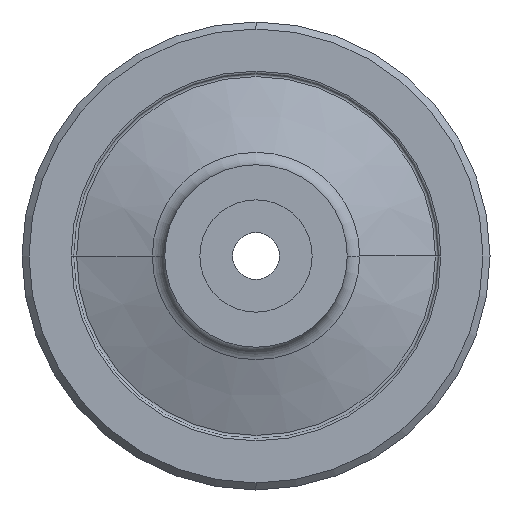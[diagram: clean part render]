
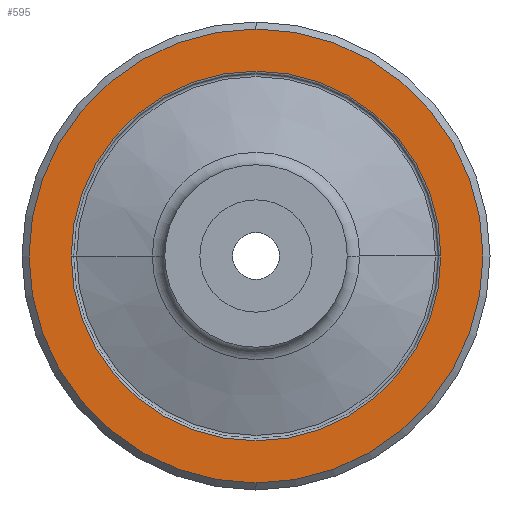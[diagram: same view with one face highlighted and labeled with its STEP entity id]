
A CAD part, left-side view. The second image highlights one B-rep face of the part: STEP entity #595.
In plain terms, the highlighted planar face has unit normal (-1, 0, 0).
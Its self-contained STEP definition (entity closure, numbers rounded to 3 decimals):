
#1 = AXIS2_PLACEMENT_3D ( 'NONE', #1043, #512, #943 ) ;
#4 = CIRCLE ( 'NONE', #1004, 39.5 ) ;
#12 = VERTEX_POINT ( 'NONE', #1334 ) ;
#30 = EDGE_CURVE ( 'NONE', #1308, #12, #1207, .T. ) ;
#44 = CARTESIAN_POINT ( 'NONE',  ( 25., 0., 0. ) ) ;
#154 = EDGE_LOOP ( 'NONE', ( #1087, #1060 ) ) ;
#192 = CIRCLE ( 'NONE', #1157, 48.5 ) ;
#215 = DIRECTION ( 'NONE',  ( -1., 0., 0. ) ) ;
#275 = ORIENTED_EDGE ( 'NONE', *, *, #998, .T. ) ;
#321 = FACE_OUTER_BOUND ( 'NONE', #720, .T. ) ;
#390 = VERTEX_POINT ( 'NONE', #1212 ) ;
#512 = DIRECTION ( 'NONE',  ( 1., 0., 0. ) ) ;
#532 = PLANE ( 'NONE',  #1326 ) ;
#556 = EDGE_CURVE ( 'NONE', #390, #1165, #715, .T. ) ;
#595 = ADVANCED_FACE ( 'NONE', ( #321, #1162 ), #532, .F. ) ;
#628 = AXIS2_PLACEMENT_3D ( 'NONE', #646, #215, #1064 ) ;
#629 = DIRECTION ( 'NONE',  ( 1., 0., 0. ) ) ;
#646 = CARTESIAN_POINT ( 'NONE',  ( 25., 0., 0. ) ) ;
#715 = CIRCLE ( 'NONE', #628, 48.5 ) ;
#720 = EDGE_LOOP ( 'NONE', ( #1019, #275 ) ) ;
#775 = DIRECTION ( 'NONE',  ( 0., 1., 0. ) ) ;
#852 = CARTESIAN_POINT ( 'NONE',  ( 25., 39., 0. ) ) ;
#859 = CARTESIAN_POINT ( 'NONE',  ( 25., 0., 48.5 ) ) ;
#898 = CARTESIAN_POINT ( 'NONE',  ( 25., 39.5, 0. ) ) ;
#943 = DIRECTION ( 'NONE',  ( 0., 1., 0. ) ) ;
#998 = EDGE_CURVE ( 'NONE', #1165, #390, #192, .T. ) ;
#1004 = AXIS2_PLACEMENT_3D ( 'NONE', #1307, #1006, #1322 ) ;
#1006 = DIRECTION ( 'NONE',  ( 1., 0., 0. ) ) ;
#1019 = ORIENTED_EDGE ( 'NONE', *, *, #556, .T. ) ;
#1043 = CARTESIAN_POINT ( 'NONE',  ( 25., 0., 0. ) ) ;
#1060 = ORIENTED_EDGE ( 'NONE', *, *, #1248, .T. ) ;
#1064 = DIRECTION ( 'NONE',  ( 0., 1., 0. ) ) ;
#1087 = ORIENTED_EDGE ( 'NONE', *, *, #30, .T. ) ;
#1157 = AXIS2_PLACEMENT_3D ( 'NONE', #44, #1306, #775 ) ;
#1162 = FACE_BOUND ( 'NONE', #154, .T. ) ;
#1165 = VERTEX_POINT ( 'NONE', #859 ) ;
#1207 = CIRCLE ( 'NONE', #1, 39.5 ) ;
#1212 = CARTESIAN_POINT ( 'NONE',  ( 25., 0., -48.5 ) ) ;
#1248 = EDGE_CURVE ( 'NONE', #12, #1308, #4, .T. ) ;
#1306 = DIRECTION ( 'NONE',  ( -1., 0., 0. ) ) ;
#1307 = CARTESIAN_POINT ( 'NONE',  ( 25., 0., 0. ) ) ;
#1308 = VERTEX_POINT ( 'NONE', #898 ) ;
#1322 = DIRECTION ( 'NONE',  ( 0., 1., 0. ) ) ;
#1326 = AXIS2_PLACEMENT_3D ( 'NONE', #852, #629, #1372 ) ;
#1334 = CARTESIAN_POINT ( 'NONE',  ( 25., -39.5, 0. ) ) ;
#1372 = DIRECTION ( 'NONE',  ( 0., 1., 0. ) ) ;
